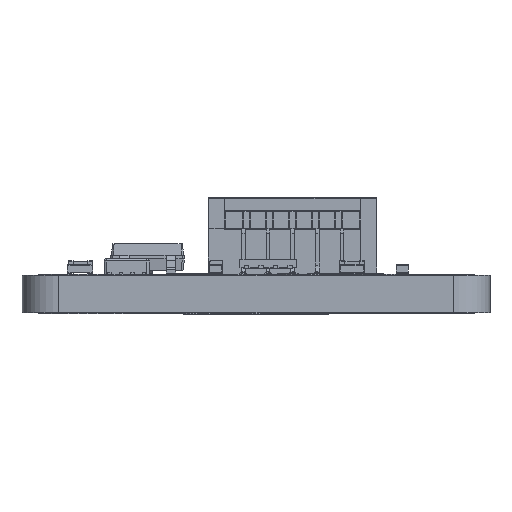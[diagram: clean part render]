
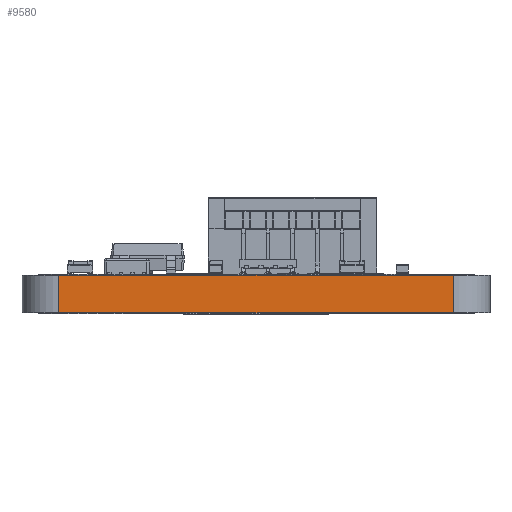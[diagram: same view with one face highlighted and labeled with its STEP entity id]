
A CAD part, left-side view. The second image highlights one B-rep face of the part: STEP entity #9580.
In plain terms, the highlighted planar face has unit normal (-1, 0, 0).
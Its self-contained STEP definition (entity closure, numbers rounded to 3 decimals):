
#9580=ADVANCED_FACE('',(#14636),#79797,.T.);
#14636=FACE_OUTER_BOUND('',#19818,.T.);
#19818=EDGE_LOOP('',(#30133,#30134,#30135,#30136));
#30133=ORIENTED_EDGE('',*,*,#51683,.T.);
#30134=ORIENTED_EDGE('',*,*,#51671,.F.);
#30135=ORIENTED_EDGE('',*,*,#51677,.F.);
#30136=ORIENTED_EDGE('',*,*,#51665,.T.);
#51665=EDGE_CURVE('',#72657,#72658,#63930,.T.);
#51671=EDGE_CURVE('',#72691,#72692,#63936,.T.);
#51677=EDGE_CURVE('',#72657,#72691,#63942,.T.);
#51683=EDGE_CURVE('',#72658,#72692,#63944,.T.);
#63930=B_SPLINE_CURVE_WITH_KNOTS('',1,(#119172,#119173),.UNSPECIFIED.,.F.,
 .F.,(2,2),(0.,16.),.UNSPECIFIED.);
#63936=B_SPLINE_CURVE_WITH_KNOTS('',1,(#119184,#119185),.UNSPECIFIED.,.F.,
 .F.,(2,2),(0.,16.),.UNSPECIFIED.);
#63942=B_SPLINE_CURVE_WITH_KNOTS('',1,(#119196,#119197),.UNSPECIFIED.,.F.,
 .F.,(2,2),(0.,1.516),.UNSPECIFIED.);
#63944=B_SPLINE_CURVE_WITH_KNOTS('',1,(#119212,#119213),.UNSPECIFIED.,.F.,
 .F.,(2,2),(0.,1.516),.UNSPECIFIED.);
#72657=VERTEX_POINT('',#119062);
#72658=VERTEX_POINT('',#119063);
#72691=VERTEX_POINT('',#119096);
#72692=VERTEX_POINT('',#119097);
#79797=PLANE('',#83629);
#83629=AXIS2_PLACEMENT_3D('',#119011,#90634,$);
#90634=DIRECTION('',(-1.,0.,0.));
#119011=CARTESIAN_POINT('',(-12.,-9.6,1.668));
#119062=CARTESIAN_POINT('',(-12.,8.,0.));
#119063=CARTESIAN_POINT('',(-12.,-8.,0.));
#119096=CARTESIAN_POINT('',(-12.,8.,1.516));
#119097=CARTESIAN_POINT('',(-12.,-8.,1.516));
#119172=CARTESIAN_POINT('',(-12.,8.,0.));
#119173=CARTESIAN_POINT('',(-12.,-8.,0.));
#119184=CARTESIAN_POINT('',(-12.,8.,1.516));
#119185=CARTESIAN_POINT('',(-12.,-8.,1.516));
#119196=CARTESIAN_POINT('',(-12.,8.,0.));
#119197=CARTESIAN_POINT('',(-12.,8.,1.516));
#119212=CARTESIAN_POINT('',(-12.,-8.,0.));
#119213=CARTESIAN_POINT('',(-12.,-8.,1.516));
